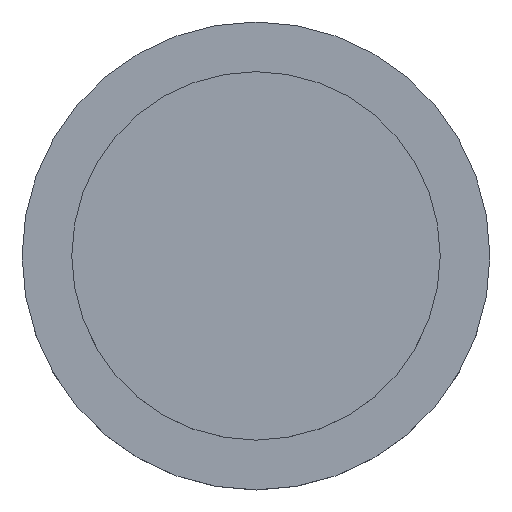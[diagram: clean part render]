
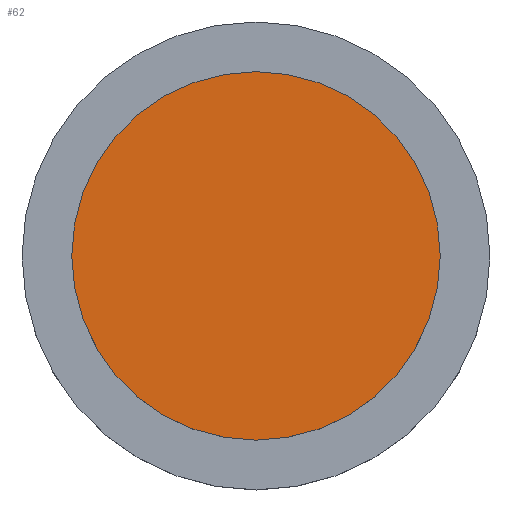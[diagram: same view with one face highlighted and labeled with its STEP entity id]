
A CAD part, top view. The second image highlights one B-rep face of the part: STEP entity #62.
In plain terms, the highlighted planar face has unit normal (0, 0, 1).
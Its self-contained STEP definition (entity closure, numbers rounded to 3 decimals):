
#62=ADVANCED_FACE('',(#80),#81,.T.);
#80=FACE_OUTER_BOUND('',#98,.T.);
#81=PLANE('',#99);
#98=EDGE_LOOP('',(#150,#151));
#99=AXIS2_PLACEMENT_3D('',#152,#153,#154);
#150=ORIENTED_EDGE('',*,*,#166,.T.);
#151=ORIENTED_EDGE('',*,*,#167,.T.);
#152=CARTESIAN_POINT('',(0.0,0.0,6.0));
#153=DIRECTION('',(0.0,0.0,1.0));
#154=DIRECTION('',(1.0,0.0,0.0));
#166=EDGE_CURVE('',#183,#187,#189,.T.);
#167=EDGE_CURVE('',#187,#183,#190,.T.);
#183=VERTEX_POINT('',#208);
#187=VERTEX_POINT('',#213);
#189=CIRCLE('',#216,10.0);
#190=CIRCLE('',#217,10.0);
#208=CARTESIAN_POINT('',(10.0,0.0,6.0));
#213=CARTESIAN_POINT('',(-10.0,0.,6.0));
#216=AXIS2_PLACEMENT_3D('',#244,#245,#246);
#217=AXIS2_PLACEMENT_3D('',#247,#248,#249);
#244=CARTESIAN_POINT('',(0.0,0.0,6.0));
#245=DIRECTION('',(0.0,0.0,1.0));
#246=DIRECTION('',(1.0,0.0,0.0));
#247=CARTESIAN_POINT('',(0.0,0.0,6.0));
#248=DIRECTION('',(0.0,0.0,1.0));
#249=DIRECTION('',(1.0,0.0,0.0));
